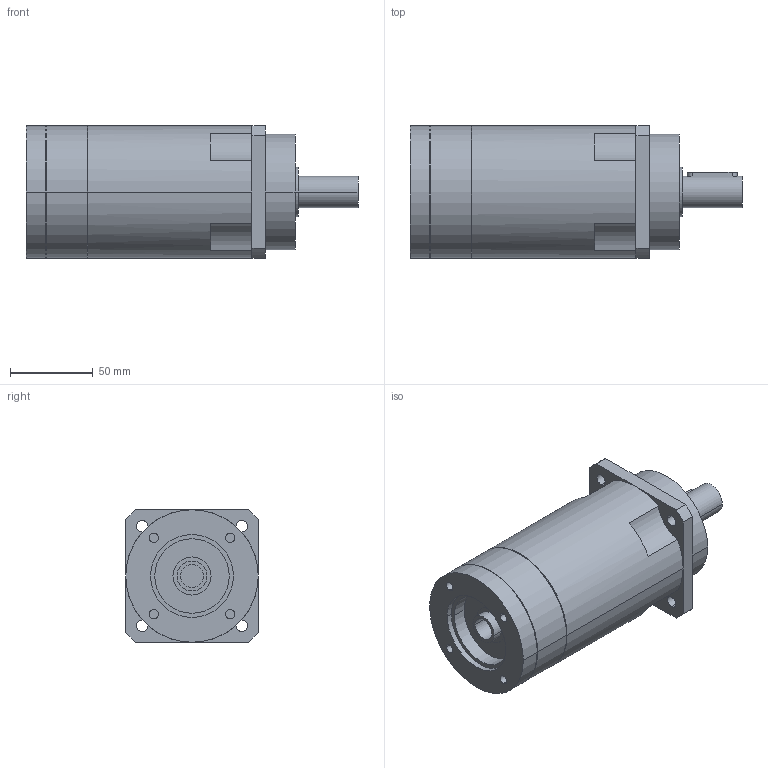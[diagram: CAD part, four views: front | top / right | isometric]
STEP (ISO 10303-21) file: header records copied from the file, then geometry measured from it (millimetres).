
FILE_DESCRIPTION(('CoCreate Modeling STEP Export'),'2;1');
FILE_NAME('GPR100_ig-48-64-80-100-120-144-180-216_19_B5_14_P10.stp','2014-08-26T11:55:06',(''),(''),'CoCreate Modeling STEP processor for AP214 (Solid Model)','CoCreate Modeling 16.00C 25-Feb-2009 (C) Parametric Technology GmbH','');
FILE_SCHEMA(('AUTOMOTIVE_DESIGN { 1 0 10303 214 1 1 1 1 }'));
Length unit declared in the file: millimetre
Products named in the file (2): GPR100_ig-48-64-80-100-120-144-180-216_19_B5_14_P10
Assembly tree (1 placements, depth 2):
  GPR100_ig-48-64-80-100-120-144-180-216_19_B5_14_P10
    GPR100_ig-48-64-80-100-120-144-180-216_19_B5_14_P10
Bounding box: 200.4 x 80 x 80 mm (x, y, z)
Volume: 782617.7 mm3; surface area: 62088.3 mm2
Topology: 1 solids, 1 shells, 99 faces, 258 edges, 178 vertices
Faces by surface type: cylinder 58, plane 35, cone 6
Entity records: 2684 total; most frequent: ORIENTED_EDGE 512, CARTESIAN_POINT 480, DIRECTION 386, EDGE_CURVE 256, VERTEX_POINT 178, AXIS2_PLACEMENT_3D 148, EDGE_LOOP 126, FACE_OUTER_BOUND 99
